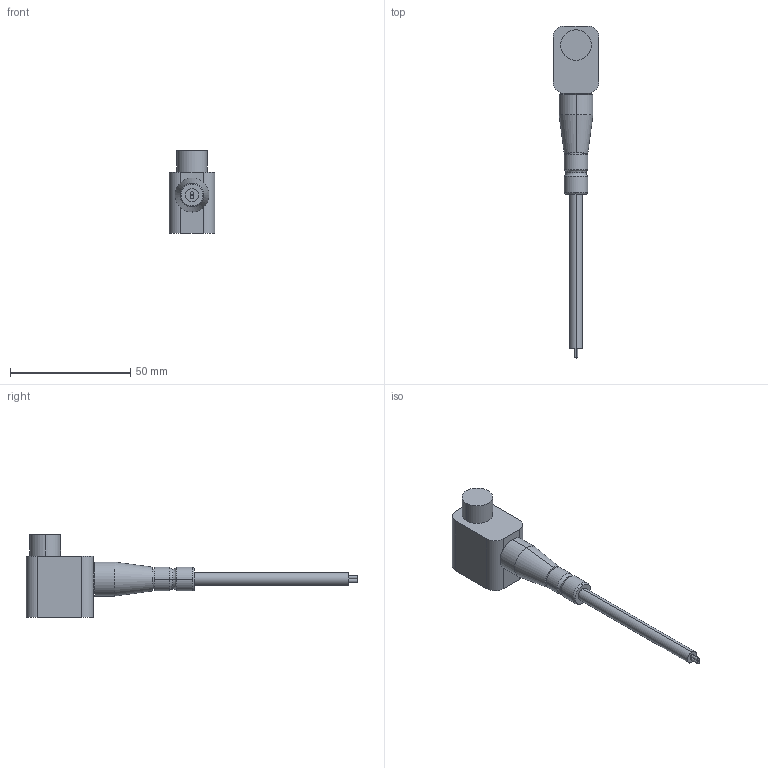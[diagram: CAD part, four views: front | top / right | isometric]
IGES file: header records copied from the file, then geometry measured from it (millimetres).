
Start section: SolidWorks IGES file using analytic representation for surfaces
Global section: file name: S:\Product Visuals\FILES FOR PUBLICATION\SOLID MODELS FOR PUBLICATION\30-fiber\igs\leak-detection-fittings\lc-conductivity-leak-detect.IGS; native system: SolidWorks 2012; preprocessor: SolidWorks 2012; author: rachel.dressel; date: 121120.162532; units: inch
Bounding box: 19.05 x 137.79 x 34.29 mm (x, y, z)
Volume: 21028.2 mm3; surface area: 7477.3 mm2
Topology: 7 solids, 7 shells, 93 faces, 194 edges, 120 vertices
Faces by surface type: revolution 66, plane 23, bspline 4
